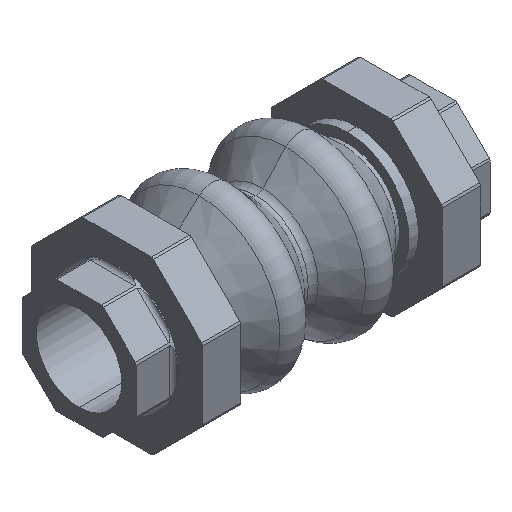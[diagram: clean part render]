
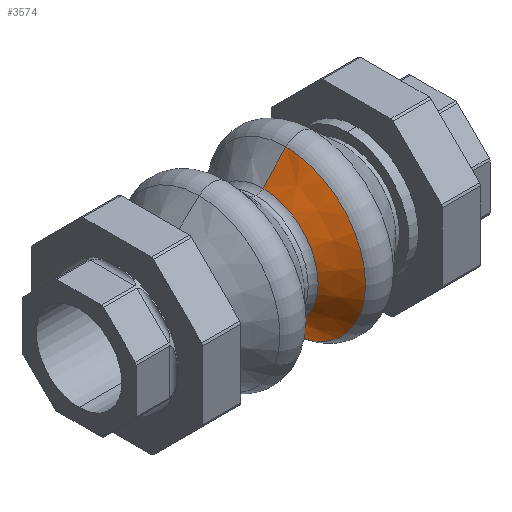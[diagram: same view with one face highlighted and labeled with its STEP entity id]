
A CAD part, isometric view. The second image highlights one B-rep face of the part: STEP entity #3574.
In plain terms, the highlighted conical face has half-angle 46.788 degrees and reference radius 41.847 mm.
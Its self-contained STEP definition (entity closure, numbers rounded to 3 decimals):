
#352 = LINE ( 'NONE', #406, #405 ) ;
#386 = DIRECTION ( 'NONE',  ( 0., 0., 1. ) ) ;
#387 = DIRECTION ( 'NONE',  ( -1., 0., 0. ) ) ;
#388 = CARTESIAN_POINT ( 'NONE',  ( 3.644, 0., 0. ) ) ;
#389 = AXIS2_PLACEMENT_3D ( 'NONE', #388, #387, #386 ) ;
#390 = CIRCLE ( 'NONE', #389, 29.002 ) ;
#402 = CARTESIAN_POINT ( 'NONE',  ( 3.644, 0., 29.002 ) ) ;
#404 = DIRECTION ( 'NONE',  ( 0.685, 0., -0.729 ) ) ;
#405 = VECTOR ( 'NONE', #404, 1000. ) ;
#406 = CARTESIAN_POINT ( 'NONE',  ( 15.712, 0., -41.847 ) ) ;
#491 = CARTESIAN_POINT ( 'NONE',  ( 15.712, 0., 41.847 ) ) ;
#745 = CARTESIAN_POINT ( 'NONE',  ( 15.712, 0., -41.847 ) ) ;
#779 = CARTESIAN_POINT ( 'NONE',  ( 3.644, 0., -29.002 ) ) ;
#780 = DIRECTION ( 'NONE',  ( 0.685, 0., 0.729 ) ) ;
#781 = VECTOR ( 'NONE', #780, 1000. ) ;
#782 = CARTESIAN_POINT ( 'NONE',  ( 15.712, 0., 41.847 ) ) ;
#784 = LINE ( 'NONE', #782, #781 ) ;
#3115 = DIRECTION ( 'NONE',  ( 0., 0., -1. ) ) ;
#3120 = DIRECTION ( 'NONE',  ( 1., 0., 0. ) ) ;
#3121 = CARTESIAN_POINT ( 'NONE',  ( 15.712, 0., 0. ) ) ;
#3122 = CONICAL_SURFACE ( 'NONE', #3137, 41.847, 0.817 ) ;
#3123 = DIRECTION ( 'NONE',  ( 0., 0., 1. ) ) ;
#3124 = DIRECTION ( 'NONE',  ( -1., 0., 0. ) ) ;
#3125 = CARTESIAN_POINT ( 'NONE',  ( 15.712, 0., 0. ) ) ;
#3126 = AXIS2_PLACEMENT_3D ( 'NONE', #3125, #3124, #3123 ) ;
#3135 = CIRCLE ( 'NONE', #3126, 41.847 ) ;
#3137 = AXIS2_PLACEMENT_3D ( 'NONE', #3121, #3120, #3115 ) ;
#3140 = FACE_OUTER_BOUND ( 'NONE', #3584, .T. ) ;
#3569 = ORIENTED_EDGE ( 'NONE', *, *, #3570, .T. ) ;
#3570 = EDGE_CURVE ( 'NONE', #4814, #4798, #3135, .T. ) ;
#3572 = ORIENTED_EDGE ( 'NONE', *, *, #4732, .T. ) ;
#3574 = ADVANCED_FACE ( 'NONE', ( #3140 ), #3122, .T. ) ;
#3579 = ORIENTED_EDGE ( 'NONE', *, *, #4742, .F. ) ;
#3582 = ORIENTED_EDGE ( 'NONE', *, *, #4821, .F. ) ;
#3584 = EDGE_LOOP ( 'NONE', ( #3582, #3579, #3572, #3569 ) ) ;
#4732 = EDGE_CURVE ( 'NONE', #4823, #4814, #352, .T. ) ;
#4742 = EDGE_CURVE ( 'NONE', #4823, #4796, #390, .T. ) ;
#4796 = VERTEX_POINT ( 'NONE', #402 ) ;
#4798 = VERTEX_POINT ( 'NONE', #491 ) ;
#4814 = VERTEX_POINT ( 'NONE', #745 ) ;
#4821 = EDGE_CURVE ( 'NONE', #4796, #4798, #784, .T. ) ;
#4823 = VERTEX_POINT ( 'NONE', #779 ) ;
